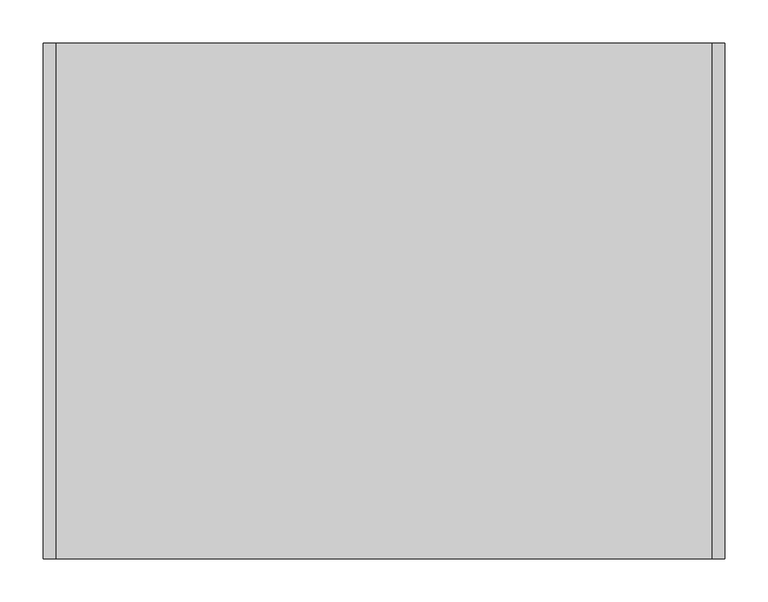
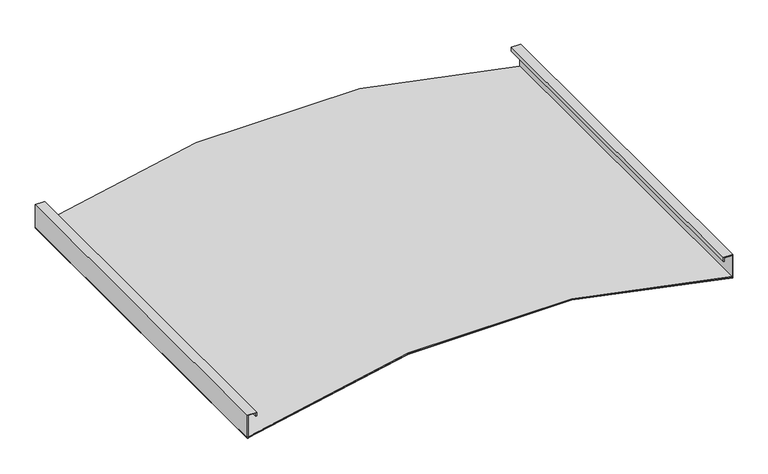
"""IFC4 building model written with IfcOpenShell, lengths in millimetres: proxy geometry, durlum_S7_DOMUS_ALT_panel : durlum_S7_DOMUS_panel."""

from ifc_helpers import new_model, si_unit, point, frame, frame_2d, origin, place, context, project, spatial, polyline, circle_curve, trimmed, segment, composite_curve, outline, extrude, source, transform, mapped, element, save


def generic_models_e175033b(model_context):
    return source(origin(), model_context, "Body", "SweptSolid", [
        extrude(outline(composite_curve([segment(trimmed(circle_curve(frame_2d((-1276.8, 0.0)), 1337.8), [point((1.3564224, -395.0))], [point((1.3564224, 395.0))], True, "CARTESIAN"), True, "CONTINUOUS"), segment(polyline([(1.3564224, 395.0), (2.4030488, 395.0)]), True, "CONTINUOUS"), segment(trimmed(circle_curve(frame_2d((-1276.8, 0.0)), 1338.8), [point((2.4030488, 395.0))], [point((2.4030488, -395.0))], False, "CARTESIAN"), True, "CONTINUOUS"), segment(polyline([(2.4030488, -395.0), (1.3564224, -395.0)]), True, "CONTINUOUS")], self_intersect=False)), frame((0.0, -299.75, 0.0), z_axis=(0.0, 1.0, 0.0), x_axis=(0.0, 0.0, 1.0)), (0.0, 0.0, 1.0), 599.5),
        extrude(outline(polyline([(40.0, -396.0), (0.0, -396.0), (0.0, -395.0), (39.0, -395.0), (39.0, -382.0), (33.5, -382.0), (33.5, -381.0), (40.0, -381.0), (40.0, -396.0)])), frame((0.0, -299.75, 0.0), z_axis=(0.0, 1.0, 0.0), x_axis=(0.0, 0.0, 1.0)), (0.0, 0.0, 1.0), 599.5),
        extrude(outline(polyline([(40.0, 396.0), (40.0, 381.0), (33.5, 381.0), (33.5, 382.0), (39.0, 382.0), (39.0, 395.0), (0.0, 395.0), (0.0, 396.0), (40.0, 396.0)])), frame((0.0, -299.75, 0.0), z_axis=(0.0, 1.0, 0.0), x_axis=(0.0, 0.0, 1.0)), (0.0, 0.0, 1.0), 599.5),
        extrude(outline(composite_curve([segment(polyline([(1.0469548, -396.0), (0.0, -396.0)]), True, "CONTINUOUS"), segment(trimmed(circle_curve(frame_2d((-1276.8, 0.0)), 1336.8), [point((0.0, -396.0))], [point((0.0, 396.0))], True, "CARTESIAN"), True, "CONTINUOUS"), segment(polyline([(0.0, 396.0), (1.0469548, 396.0)]), True, "CONTINUOUS"), segment(trimmed(circle_curve(frame_2d((-1276.8, 0.0)), 1337.8), [point((1.0469548, 396.0))], [point((1.0469548, -396.0))], False, "CARTESIAN"), True, "CONTINUOUS")], self_intersect=False)), frame((0.0, -299.75, 0.0), z_axis=(0.0, 1.0, 0.0), x_axis=(0.0, 0.0, 1.0)), (0.0, 0.0, 1.0), 599.5),
    ])


if __name__ == "__main__":
    model = new_model("IFC4")
    model_context = context("Model", 3, world=origin())
    ifc_project = project(units=[si_unit("LENGTHUNIT", "METRE", prefix="MILLI")], contexts=[model_context])
    site = spatial("IfcSite", under=ifc_project)
    building = spatial("IfcBuilding", under=site)
    placement = place(None, origin())
    generic_models_shape = generic_models_e175033b(model_context)
    element("IfcBuildingElementProxy", 1, Name="durlum_S7_DOMUS_ALT_panel : durlum_S7_DOMUS_panel", ObjectType="durlum_S7_DOMUS_ALT_panel : durlum_S7_DOMUS_panel", at=placement, inside=building, context=model_context, shape_type="MappedRepresentation", body=[
        mapped(generic_models_shape, transform((0.0, 0.0, 0.0), x_axis=(1.0, 0.0, 0.0), y_axis=(0.0, 1.0, 0.0), z_axis=(0.0, 0.0, 1.0))),
    ])
    save(model, "model.ifc")
